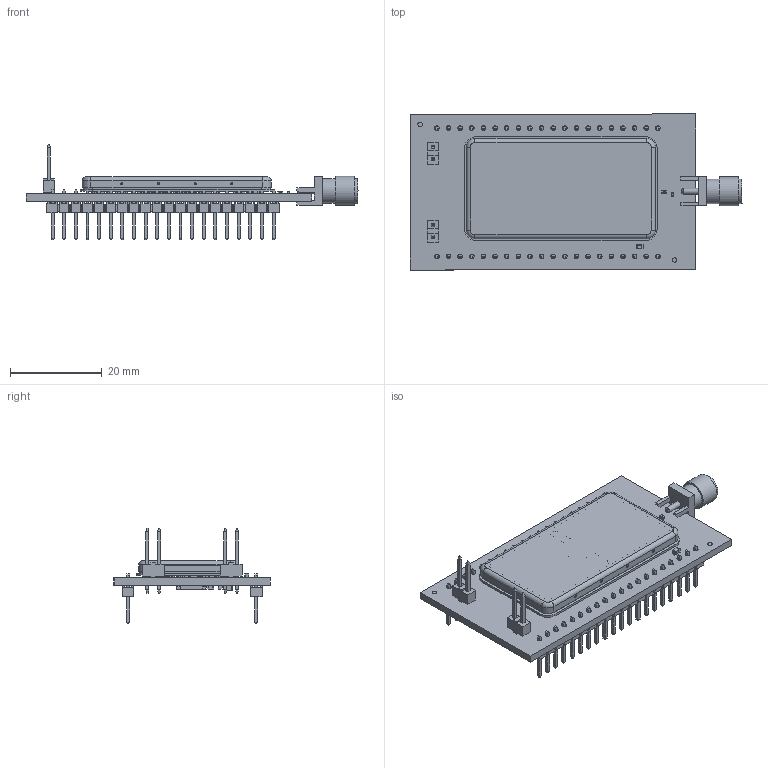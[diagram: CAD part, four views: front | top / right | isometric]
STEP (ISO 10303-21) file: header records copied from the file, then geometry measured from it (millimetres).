
FILE_DESCRIPTION(('Open CASCADE Model'),'2;1');
FILE_NAME('Open CASCADE Shape Model','2022-03-30T09:47:05',('Author'),( 'Open CASCADE'),'Open CASCADE STEP processor 6.8','Open CASCADE 6.8' ,'Unknown');
FILE_SCHEMA(('AUTOMOTIVE_DESIGN { 1 0 10303 214 1 1 1 1 }'));
Length unit declared in the file: millimetre
Products named in the file (117): PCB; Board; Open CASCADE STEP translator 6.8 1.1.1; SB11; 6235102768; Extruded; C37; CAPC1005X06; C36; C35; CAPC1608X09; C16; C4; L8; IND_MURATA_LQW15AN; SB8; 6235101888; C32; U4; User_Library-QFN48_7x7; SB1; SB2; SB3; SB4; SB5; SB9; SB7; SB6; SB10; SB13; SB14; U3; 6249394000; Open_CASCADE_STEP_translator_6.8_2.1; Body; Open_CASCADE_STEP_translator_6.8_2.2.1; Pin_Shape; Open_CASCADE_STEP_translator_6.8_2.3.1; Mire_1; 6234884304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
Assembly tree (178 placements, depth 5):
  PCB
    Board
      Open CASCADE STEP translator 6.8 1.1.1
    SB11
      6235102768
        Extruded
    C37
      CAPC1005X06
    C36
      CAPC1005X06
    C35
      CAPC1608X09
    C16
      CAPC1608X09
    C4
      CAPC1005X06
    L8
      IND_MURATA_LQW15AN
    SB8
      6235101888
        Extruded
    C32
      CAPC1005X06
    U4
      User_Library-QFN48_7x7
    SB1
      6235102768
        Extruded
    SB2
      6235102768
        Extruded
    SB3
      6235102768
        Extruded
    SB4
      6235102768
        Extruded
    SB5
      6235102768
        Extruded
    SB9
      6235102768
        Extruded
    SB7
      6235102768
        Extruded
    SB6
      6235102768
        Extruded
    SB10
      6235102768
        Extruded
    SB13
      6235101888
        Extruded
    SB14
      6235101888
        Extruded
    U3
      6249394000
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Bounding box: 72.5 x 34.09 x 20.81 mm (x, y, z)
Volume: 4937.8 mm3; surface area: 12121.8 mm2
Topology: 87 solids, 90 shells, 6101 faces, 15905 edges, 9717 vertices
Faces by surface type: plane 3782, cylinder 1430, bspline 824, sphere 48, torus 16, cone 1
Full cylindrical faces by diameter (mm): 0.094 x1, 1 x44, 1.27 x2, 4.1 x1, 4.25 x1, 4.63 x1, 5.35 x2, 6.33 x1
Entity records: 92454 total; most frequent: CARTESIAN_POINT 16708, ORIENTED_EDGE 12731, DIRECTION 11580, EDGE_CURVE 6367, LINE 4962, VECTOR 4962, VERTEX_POINT 4060, AXIS2_PLACEMENT_3D 3309
